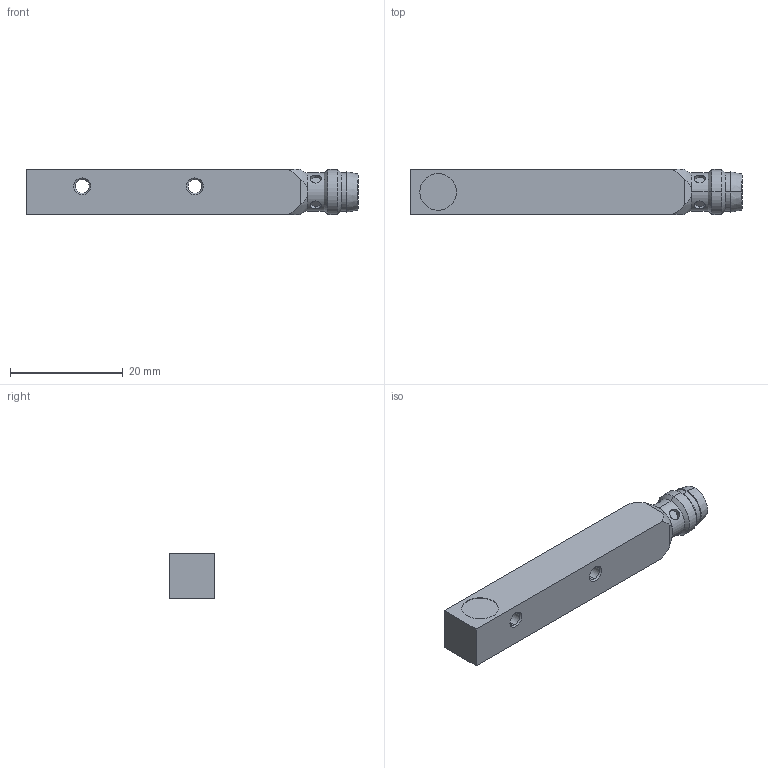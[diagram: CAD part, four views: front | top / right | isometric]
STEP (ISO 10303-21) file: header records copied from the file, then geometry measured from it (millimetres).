
FILE_DESCRIPTION (( 'STEP AP203' ), '1' );
FILE_NAME ('15000003.STEP', '2019-02-15T12:56:15', ( '' ), ( '' ), 'SwSTEP 2.0', 'SolidWorks 2015', '' );
FILE_SCHEMA (( 'CONFIG_CONTROL_DESIGN' ));
Length unit declared in the file: millimetre
Products named in the file (1): 15000003
Bounding box: 59 x 8 x 8 mm (x, y, z)
Volume: 3322.2 mm3; surface area: 2163.8 mm2
Topology: 1 solids, 1 shells, 73 faces, 158 edges, 98 vertices
Faces by surface type: cylinder 28, plane 21, cone 20, bspline 4
Entity records: 2323 total; most frequent: CARTESIAN_POINT 646, DIRECTION 344, ORIENTED_EDGE 316, EDGE_CURVE 158, AXIS2_PLACEMENT_3D 140, VERTEX_POINT 98, EDGE_LOOP 88, FACE_OUTER_BOUND 73
